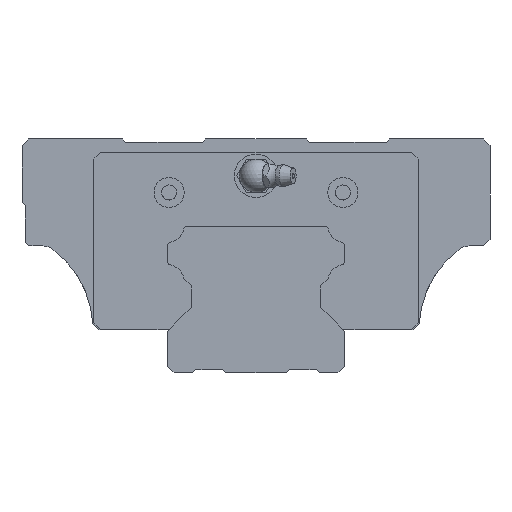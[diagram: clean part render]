
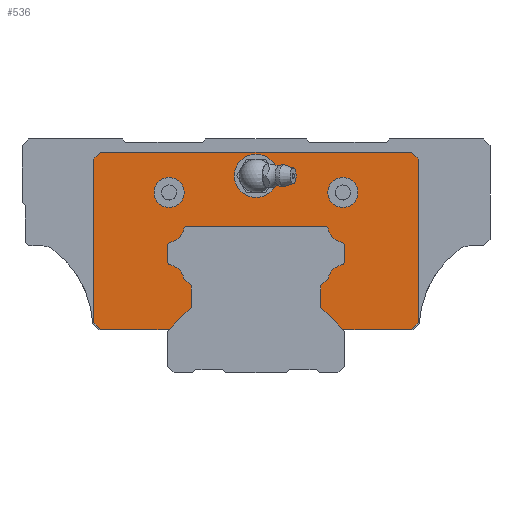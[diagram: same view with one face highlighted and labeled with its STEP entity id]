
A CAD part, front view. The second image highlights one B-rep face of the part: STEP entity #536.
In plain terms, the highlighted planar face has unit normal (0, -1, 0).
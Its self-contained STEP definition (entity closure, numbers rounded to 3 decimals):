
#143=FACE_BOUND('',#1078,.T.);
#144=FACE_BOUND('',#1080,.T.);
#145=FACE_BOUND('',#1081,.T.);
#331=CIRCLE('',#3902,1.);
#333=CIRCLE('',#3906,1.);
#335=CIRCLE('',#3909,5.15);
#337=CIRCLE('',#3912,1.);
#339=CIRCLE('',#3916,1.);
#341=CIRCLE('',#3919,5.15);
#343=CIRCLE('',#3939,5.15);
#345=CIRCLE('',#3942,1.);
#347=CIRCLE('',#3946,1.);
#349=CIRCLE('',#3949,5.15);
#365=CIRCLE('',#4003,6.5);
#366=CIRCLE('',#4004,4.5);
#367=CIRCLE('',#4005,4.5);
#536=ADVANCED_FACE('',(#143,#866,#144,#145),#704,.F.);
#704=PLANE('',#4006);
#866=FACE_OUTER_BOUND('',#1079,.T.);
#1078=EDGE_LOOP('',(#1781));
#1079=EDGE_LOOP('',(#1782,#1783,#1784,#1785,#1786,#1787,#1788,#1789,#1790,
#1791,#1792,#1793,#1794,#1795,#1796,#1797,#1798,#1799,#1800,#1801,#1802,
#1803,#1804,#1805,#1806,#1807,#1808,#1809));
#1080=EDGE_LOOP('',(#1810));
#1081=EDGE_LOOP('',(#1811));
#1781=ORIENTED_EDGE('',*,*,#2910,.F.);
#1782=ORIENTED_EDGE('',*,*,#2911,.F.);
#1783=ORIENTED_EDGE('',*,*,#2912,.F.);
#1784=ORIENTED_EDGE('',*,*,#2913,.F.);
#1785=ORIENTED_EDGE('',*,*,#2914,.F.);
#1786=ORIENTED_EDGE('',*,*,#2915,.F.);
#1787=ORIENTED_EDGE('',*,*,#2826,.F.);
#1788=ORIENTED_EDGE('',*,*,#2831,.F.);
#1789=ORIENTED_EDGE('',*,*,#2834,.F.);
#1790=ORIENTED_EDGE('',*,*,#2837,.F.);
#1791=ORIENTED_EDGE('',*,*,#2840,.F.);
#1792=ORIENTED_EDGE('',*,*,#2843,.F.);
#1793=ORIENTED_EDGE('',*,*,#2846,.F.);
#1794=ORIENTED_EDGE('',*,*,#2849,.F.);
#1795=ORIENTED_EDGE('',*,*,#2851,.F.);
#1796=ORIENTED_EDGE('',*,*,#2761,.F.);
#1797=ORIENTED_EDGE('',*,*,#2764,.F.);
#1798=ORIENTED_EDGE('',*,*,#2767,.F.);
#1799=ORIENTED_EDGE('',*,*,#2770,.F.);
#1800=ORIENTED_EDGE('',*,*,#2773,.F.);
#1801=ORIENTED_EDGE('',*,*,#2776,.F.);
#1802=ORIENTED_EDGE('',*,*,#2779,.F.);
#1803=ORIENTED_EDGE('',*,*,#2782,.F.);
#1804=ORIENTED_EDGE('',*,*,#2785,.F.);
#1805=ORIENTED_EDGE('',*,*,#2788,.F.);
#1806=ORIENTED_EDGE('',*,*,#2791,.F.);
#1807=ORIENTED_EDGE('',*,*,#2797,.F.);
#1808=ORIENTED_EDGE('',*,*,#2916,.F.);
#1809=ORIENTED_EDGE('',*,*,#2917,.F.);
#1810=ORIENTED_EDGE('',*,*,#2918,.F.);
#1811=ORIENTED_EDGE('',*,*,#2919,.F.);
#2362=VERTEX_POINT('',#5567);
#2365=VERTEX_POINT('',#5572);
#2367=VERTEX_POINT('',#5578);
#2369=VERTEX_POINT('',#5584);
#2371=VERTEX_POINT('',#5590);
#2373=VERTEX_POINT('',#5596);
#2375=VERTEX_POINT('',#5602);
#2377=VERTEX_POINT('',#5608);
#2379=VERTEX_POINT('',#5614);
#2381=VERTEX_POINT('',#5620);
#2383=VERTEX_POINT('',#5626);
#2385=VERTEX_POINT('',#5632);
#2389=VERTEX_POINT('',#5643);
#2405=VERTEX_POINT('',#5698);
#2406=VERTEX_POINT('',#5700);
#2409=VERTEX_POINT('',#5708);
#2411=VERTEX_POINT('',#5714);
#2413=VERTEX_POINT('',#5720);
#2415=VERTEX_POINT('',#5726);
#2417=VERTEX_POINT('',#5732);
#2419=VERTEX_POINT('',#5738);
#2421=VERTEX_POINT('',#5744);
#2459=VERTEX_POINT('',#5883);
#2460=VERTEX_POINT('',#5885);
#2461=VERTEX_POINT('',#5886);
#2462=VERTEX_POINT('',#5888);
#2463=VERTEX_POINT('',#5890);
#2464=VERTEX_POINT('',#5892);
#2465=VERTEX_POINT('',#5895);
#2466=VERTEX_POINT('',#5898);
#2467=VERTEX_POINT('',#5900);
#2761=EDGE_CURVE('',#2365,#2362,#331,.T.);
#2764=EDGE_CURVE('',#2367,#2365,#3232,.T.);
#2767=EDGE_CURVE('',#2369,#2367,#333,.T.);
#2770=EDGE_CURVE('',#2371,#2369,#335,.T.);
#2773=EDGE_CURVE('',#2373,#2371,#337,.T.);
#2776=EDGE_CURVE('',#2375,#2373,#3238,.T.);
#2779=EDGE_CURVE('',#2377,#2375,#339,.T.);
#2782=EDGE_CURVE('',#2379,#2377,#341,.T.);
#2785=EDGE_CURVE('',#2381,#2379,#3243,.T.);
#2788=EDGE_CURVE('',#2383,#2381,#3246,.T.);
#2791=EDGE_CURVE('',#2385,#2383,#3249,.T.);
#2797=EDGE_CURVE('',#2389,#2385,#3255,.T.);
#2826=EDGE_CURVE('',#2405,#2406,#3284,.T.);
#2831=EDGE_CURVE('',#2409,#2405,#3289,.T.);
#2834=EDGE_CURVE('',#2411,#2409,#3292,.T.);
#2837=EDGE_CURVE('',#2413,#2411,#3295,.T.);
#2840=EDGE_CURVE('',#2415,#2413,#343,.T.);
#2843=EDGE_CURVE('',#2417,#2415,#345,.T.);
#2846=EDGE_CURVE('',#2419,#2417,#3300,.T.);
#2849=EDGE_CURVE('',#2421,#2419,#347,.T.);
#2851=EDGE_CURVE('',#2362,#2421,#349,.T.);
#2910=EDGE_CURVE('',#2459,#2459,#365,.T.);
#2911=EDGE_CURVE('',#2460,#2461,#3345,.T.);
#2912=EDGE_CURVE('',#2462,#2460,#3346,.T.);
#2913=EDGE_CURVE('',#2463,#2462,#3347,.T.);
#2914=EDGE_CURVE('',#2464,#2463,#3348,.T.);
#2915=EDGE_CURVE('',#2406,#2464,#3349,.T.);
#2916=EDGE_CURVE('',#2465,#2389,#3350,.T.);
#2917=EDGE_CURVE('',#2461,#2465,#3351,.T.);
#2918=EDGE_CURVE('',#2466,#2466,#366,.T.);
#2919=EDGE_CURVE('',#2467,#2467,#367,.T.);
#3232=LINE('',#5579,#3577);
#3238=LINE('',#5603,#3583);
#3243=LINE('',#5621,#3588);
#3246=LINE('',#5627,#3591);
#3249=LINE('',#5633,#3594);
#3255=LINE('',#5644,#3600);
#3284=LINE('',#5699,#3629);
#3289=LINE('',#5709,#3634);
#3292=LINE('',#5715,#3637);
#3295=LINE('',#5721,#3640);
#3300=LINE('',#5739,#3645);
#3345=LINE('',#5884,#3690);
#3346=LINE('',#5887,#3691);
#3347=LINE('',#5889,#3692);
#3348=LINE('',#5891,#3693);
#3349=LINE('',#5893,#3694);
#3350=LINE('',#5894,#3695);
#3351=LINE('',#5896,#3696);
#3577=VECTOR('',#4439,1.);
#3583=VECTOR('',#4465,1.);
#3588=VECTOR('',#4484,1.);
#3591=VECTOR('',#4489,1.);
#3594=VECTOR('',#4494,1.);
#3600=VECTOR('',#4502,1.);
#3629=VECTOR('',#4551,1.);
#3634=VECTOR('',#4558,1.);
#3637=VECTOR('',#4563,1.);
#3640=VECTOR('',#4568,1.);
#3645=VECTOR('',#4587,1.);
#3690=VECTOR('',#4752,1.);
#3691=VECTOR('',#4753,1.);
#3692=VECTOR('',#4754,1.);
#3693=VECTOR('',#4755,1.);
#3694=VECTOR('',#4756,1.);
#3695=VECTOR('',#4757,1.);
#3696=VECTOR('',#4758,1.);
#3902=AXIS2_PLACEMENT_3D('',#5573,#4433,#4434);
#3906=AXIS2_PLACEMENT_3D('',#5585,#4445,#4446);
#3909=AXIS2_PLACEMENT_3D('',#5591,#4452,#4453);
#3912=AXIS2_PLACEMENT_3D('',#5597,#4459,#4460);
#3916=AXIS2_PLACEMENT_3D('',#5609,#4471,#4472);
#3919=AXIS2_PLACEMENT_3D('',#5615,#4478,#4479);
#3939=AXIS2_PLACEMENT_3D('',#5727,#4574,#4575);
#3942=AXIS2_PLACEMENT_3D('',#5733,#4581,#4582);
#3946=AXIS2_PLACEMENT_3D('',#5745,#4593,#4594);
#3949=AXIS2_PLACEMENT_3D('',#5748,#4599,#4600);
#4003=AXIS2_PLACEMENT_3D('',#5882,#4750,#4751);
#4004=AXIS2_PLACEMENT_3D('',#5897,#4759,#4760);
#4005=AXIS2_PLACEMENT_3D('',#5899,#4761,#4762);
#4006=AXIS2_PLACEMENT_3D('',#5901,#4763,#4764);
#4433=DIRECTION('',(0.,-1.,0.));
#4434=DIRECTION('',(1.,0.,0.));
#4439=DIRECTION('',(-1.,0.,0.));
#4445=DIRECTION('',(0.,-1.,0.));
#4446=DIRECTION('',(-1.,0.,0.));
#4452=DIRECTION('',(0.,1.,0.));
#4453=DIRECTION('',(-1.,0.,0.));
#4459=DIRECTION('',(0.,-1.,0.));
#4460=DIRECTION('',(-1.,0.,0.));
#4465=DIRECTION('',(0.,0.,1.));
#4471=DIRECTION('',(0.,-1.,0.));
#4472=DIRECTION('',(-1.,0.,0.));
#4478=DIRECTION('',(0.,1.,0.));
#4479=DIRECTION('',(-1.,0.,0.));
#4484=DIRECTION('',(0.707,0.,0.707));
#4489=DIRECTION('',(0.,0.,1.));
#4494=DIRECTION('',(-0.707,0.,0.707));
#4502=DIRECTION('',(-1.,0.,0.));
#4551=DIRECTION('',(-1.,0.,0.));
#4558=DIRECTION('',(-0.707,0.,-0.707));
#4563=DIRECTION('',(0.,0.,-1.));
#4568=DIRECTION('',(0.707,0.,-0.707));
#4574=DIRECTION('',(0.,1.,0.));
#4575=DIRECTION('',(1.,0.,0.));
#4581=DIRECTION('',(0.,-1.,0.));
#4582=DIRECTION('',(1.,0.,0.));
#4587=DIRECTION('',(0.,0.,-1.));
#4593=DIRECTION('',(0.,-1.,0.));
#4594=DIRECTION('',(1.,0.,0.));
#4599=DIRECTION('',(0.,1.,0.));
#4600=DIRECTION('',(1.,0.,0.));
#4750=DIRECTION('',(0.,-1.,0.));
#4751=DIRECTION('',(1.,0.,0.));
#4752=DIRECTION('',(0.707,0.,-0.707));
#4753=DIRECTION('',(1.,0.,0.));
#4754=DIRECTION('',(0.707,0.,0.707));
#4755=DIRECTION('',(0.,0.,1.));
#4756=DIRECTION('',(-0.707,0.,0.707));
#4757=DIRECTION('',(-0.707,0.,-0.707));
#4758=DIRECTION('',(0.,0.,-1.));
#4759=DIRECTION('',(0.,-1.,0.));
#4760=DIRECTION('',(1.,0.,0.));
#4761=DIRECTION('',(0.,-1.,0.));
#4762=DIRECTION('',(1.,0.,0.));
#4763=DIRECTION('',(0.,1.,0.));
#4764=DIRECTION('',(0.,0.,1.));
#5567=CARTESIAN_POINT('',(-21.59,110.25,43.101));
#5572=CARTESIAN_POINT('',(-20.61,110.25,43.9));
#5573=CARTESIAN_POINT('',(-20.61,110.25,42.9));
#5578=CARTESIAN_POINT('',(20.61,110.25,43.9));
#5579=CARTESIAN_POINT('',(20.61,110.25,43.9));
#5584=CARTESIAN_POINT('',(21.59,110.25,43.101));
#5585=CARTESIAN_POINT('',(20.61,110.25,42.9));
#5590=CARTESIAN_POINT('',(25.601,110.25,39.09));
#5591=CARTESIAN_POINT('',(26.635,110.25,44.135));
#5596=CARTESIAN_POINT('',(26.4,110.25,38.11));
#5597=CARTESIAN_POINT('',(25.4,110.25,38.11));
#5602=CARTESIAN_POINT('',(26.4,110.25,33.29));
#5603=CARTESIAN_POINT('',(26.4,110.25,33.29));
#5608=CARTESIAN_POINT('',(25.601,110.25,32.31));
#5609=CARTESIAN_POINT('',(25.4,110.25,33.29));
#5614=CARTESIAN_POINT('',(21.573,110.25,28.214));
#5615=CARTESIAN_POINT('',(26.635,110.25,27.265));
#5620=CARTESIAN_POINT('',(19.4,110.25,26.041));
#5621=CARTESIAN_POINT('',(19.4,110.25,26.041));
#5626=CARTESIAN_POINT('',(19.4,110.25,19.6));
#5627=CARTESIAN_POINT('',(19.4,110.25,19.6));
#5632=CARTESIAN_POINT('',(26.,110.25,13.));
#5633=CARTESIAN_POINT('',(26.,110.25,13.));
#5643=CARTESIAN_POINT('',(46.5,110.25,13.));
#5644=CARTESIAN_POINT('',(46.5,110.25,13.));
#5698=CARTESIAN_POINT('',(-26.,110.25,13.));
#5699=CARTESIAN_POINT('',(-26.,110.25,13.));
#5700=CARTESIAN_POINT('',(-46.5,110.25,13.));
#5708=CARTESIAN_POINT('',(-19.4,110.25,19.6));
#5709=CARTESIAN_POINT('',(-19.4,110.25,19.6));
#5714=CARTESIAN_POINT('',(-19.4,110.25,26.041));
#5715=CARTESIAN_POINT('',(-19.4,110.25,26.041));
#5720=CARTESIAN_POINT('',(-21.573,110.25,28.214));
#5721=CARTESIAN_POINT('',(-21.573,110.25,28.214));
#5726=CARTESIAN_POINT('',(-25.601,110.25,32.31));
#5727=CARTESIAN_POINT('',(-26.635,110.25,27.265));
#5732=CARTESIAN_POINT('',(-26.4,110.25,33.29));
#5733=CARTESIAN_POINT('',(-25.4,110.25,33.29));
#5738=CARTESIAN_POINT('',(-26.4,110.25,38.11));
#5739=CARTESIAN_POINT('',(-26.4,110.25,38.11));
#5744=CARTESIAN_POINT('',(-25.601,110.25,39.09));
#5745=CARTESIAN_POINT('',(-25.4,110.25,38.11));
#5748=CARTESIAN_POINT('',(-26.635,110.25,44.135));
#5882=CARTESIAN_POINT('',(0.,110.25,58.997));
#5883=CARTESIAN_POINT('',(6.5,110.25,58.997));
#5884=CARTESIAN_POINT('',(46.5,110.25,66.));
#5885=CARTESIAN_POINT('',(46.5,110.25,66.));
#5886=CARTESIAN_POINT('',(48.5,110.25,64.));
#5887=CARTESIAN_POINT('',(-46.5,110.25,66.));
#5888=CARTESIAN_POINT('',(-46.5,110.25,66.));
#5889=CARTESIAN_POINT('',(-48.5,110.25,64.));
#5890=CARTESIAN_POINT('',(-48.5,110.25,64.));
#5891=CARTESIAN_POINT('',(-48.5,110.25,15.));
#5892=CARTESIAN_POINT('',(-48.5,110.25,15.));
#5893=CARTESIAN_POINT('',(-46.5,110.25,13.));
#5894=CARTESIAN_POINT('',(48.5,110.25,15.));
#5895=CARTESIAN_POINT('',(48.5,110.25,15.));
#5896=CARTESIAN_POINT('',(48.5,110.25,64.));
#5897=CARTESIAN_POINT('',(-26.,110.25,54.));
#5898=CARTESIAN_POINT('',(-21.5,110.25,54.));
#5899=CARTESIAN_POINT('',(26.,110.25,54.));
#5900=CARTESIAN_POINT('',(30.5,110.25,54.));
#5901=CARTESIAN_POINT('',(26.635,110.25,27.265));
